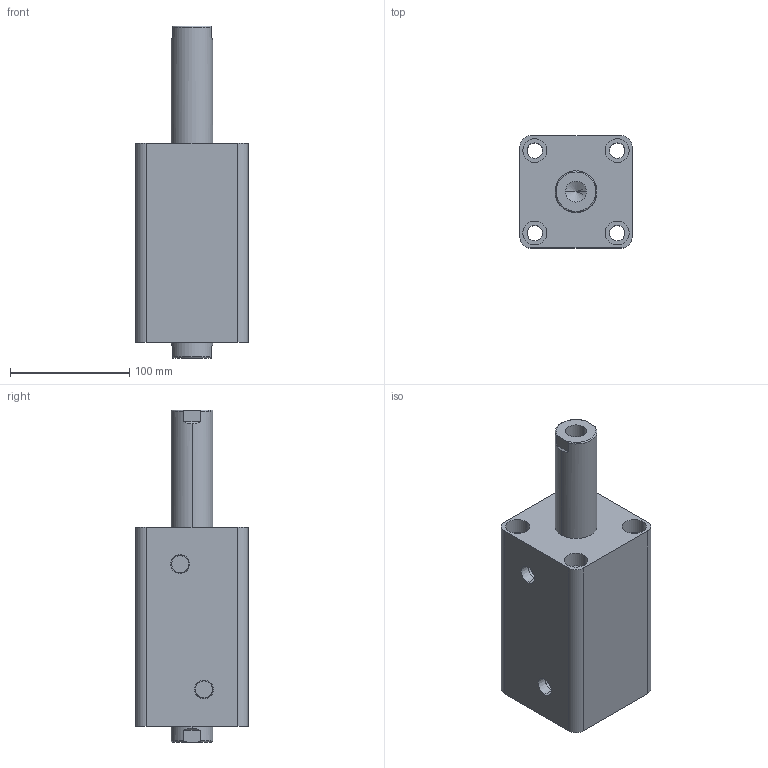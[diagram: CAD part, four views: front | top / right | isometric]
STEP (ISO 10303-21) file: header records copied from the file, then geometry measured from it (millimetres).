
FILE_DESCRIPTION (( 'STEP AP203' ), '1' );
FILE_NAME ('HTB-SW63-85N.STEP', '2019-10-07T10:08:24', ( '微软用户' ), ( '微软中国' ), 'SwSTEP 2.0', 'SolidWorks 2012', '' );
FILE_SCHEMA (( 'CONFIG_CONTROL_DESIGN' ));
Length unit declared in the file: millimetre
Products named in the file (3): HTB-SW63-85N活塞杆; HTB-SW63-85掛极; HTB-SW63-85N
Assembly tree (2 placements, depth 2):
  HTB-SW63-85N
    HTB-SW63-85掛极
    HTB-SW63-85N活塞杆
Bounding box: 94 x 94 x 278 mm (x, y, z)
Volume: 1265268.6 mm3; surface area: 177645 mm2
Topology: 2 solids, 2 shells, 100 faces, 228 edges, 146 vertices
Faces by surface type: cylinder 48, plane 32, torus 12, cone 8
Entity records: 3253 total; most frequent: CARTESIAN_POINT 611, DIRECTION 542, ORIENTED_EDGE 448, AXIS2_PLACEMENT_3D 229, EDGE_CURVE 224, VERTEX_POINT 146, EDGE_LOOP 128, CIRCLE 124
